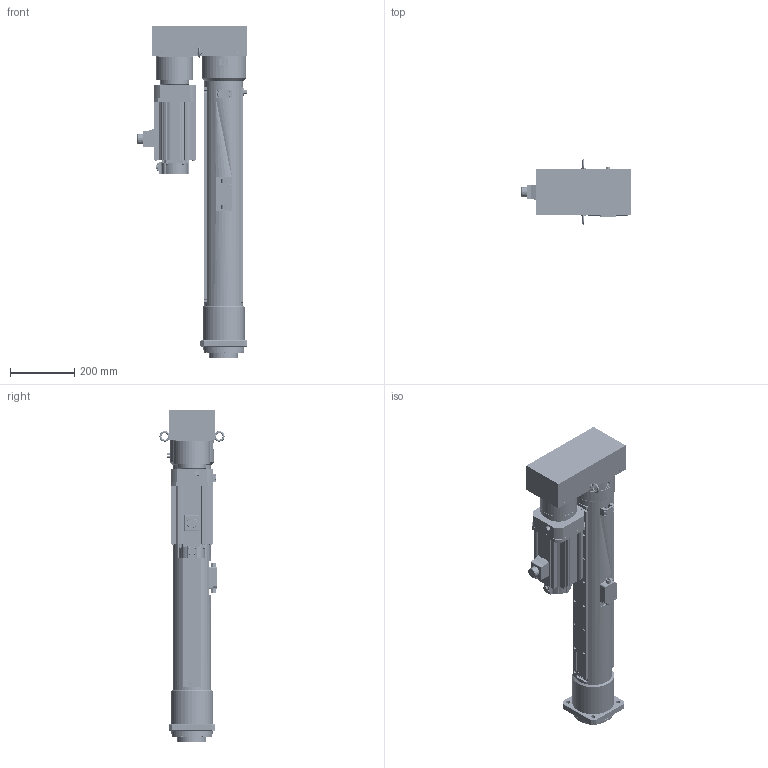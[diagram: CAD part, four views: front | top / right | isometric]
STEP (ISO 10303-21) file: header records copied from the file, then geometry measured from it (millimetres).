
FILE_DESCRIPTION( ('This file contains a STEP AP42 implementation' ,'as created by ZW3D STEP Interface translator.') ,'2;1' );
FILE_NAME( 'OACIS-DC-P035-P040-600-180-A6V200_V20.51.stp' ,'26 428.101627', (''), ('ZWCAD Software Co.'), 'Version 1.0', 'ZW3D to STEP translator', '' );
FILE_SCHEMA(('AUTOMOTIVE_DESIGN { 1 0 10303 214 1 1 1 1 }'));
Length unit declared in the file: millimetre
Products named in the file (1): 0
Bounding box: 342.5 x 202.25 x 1031 mm (x, y, z)
Volume: 16478565.1 mm3; surface area: 2471500.4 mm2
Topology: 55 solids, 55 shells, 3498 faces, 8957 edges, 5732 vertices
Faces by surface type: cylinder 1755, plane 1251, cone 359, torus 101, bspline 28, sphere 4
Full cylindrical faces by diameter (mm): 1.567 x4, 2 x1, 2.459 x1, 3.3 x100, 4.2 x4, 4.3 x34, 4.5 x14, 4.917 x20, 5 x1, 5.3 x4, 5.5 x4, 6 x8, 6.5 x4, 6.647 x6, 6.8 x41, 7 x4, 8 x36, 8.4 x8, 8.5 x5, 9 x26, 9.5 x4, 9.78 x8, 10 x3, 10.1 x4, 10.106 x1, 10.2 x16, 10.5 x4, 12 x1, 14 x4, 14.8 x1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
Entity records: 130024 total; most frequent: CARTESIAN_POINT 35335, DIRECTION 19797, ORIENTED_EDGE 17686, EDGE_CURVE 8843, AXIS2_PLACEMENT_3D 7887, VERTEX_POINT 5729, CIRCLE 4397, EDGE_LOOP 4180
